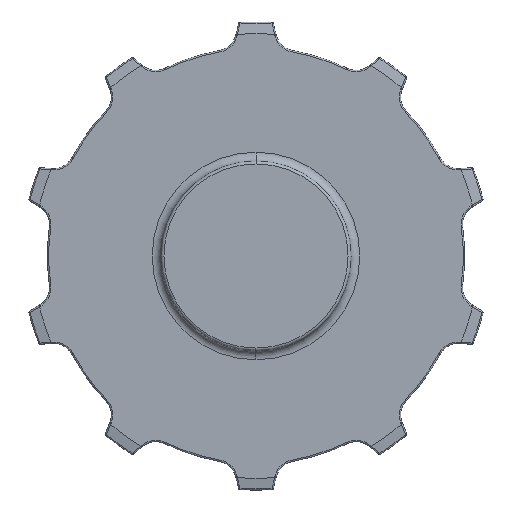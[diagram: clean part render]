
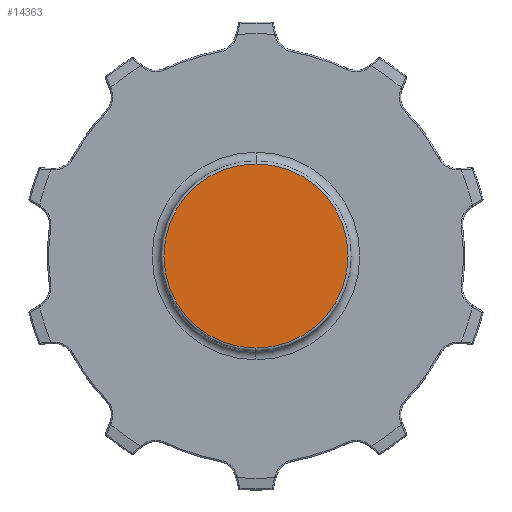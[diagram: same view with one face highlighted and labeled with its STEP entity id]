
A CAD part, left-side view. The second image highlights one B-rep face of the part: STEP entity #14363.
In plain terms, the highlighted planar face has unit normal (-1, 0, 0).
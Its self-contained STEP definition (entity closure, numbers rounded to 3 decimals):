
#313=CARTESIAN_POINT('',(-21.15,0.,0.));
#314=DIRECTION('',(-1.,0.,0.));
#315=DIRECTION('',(0.,0.,1.));
#316=AXIS2_PLACEMENT_3D('',#313,#314,#315);
#318=CARTESIAN_POINT('',(-21.15,0.,0.));
#319=DIRECTION('',(1.,0.,0.));
#320=DIRECTION('',(0.,0.,1.));
#321=AXIS2_PLACEMENT_3D('',#318,#319,#320);
#10873=CARTESIAN_POINT('',(-21.15,0.,31.5));
#10874=VERTEX_POINT('',#10873);
#10879=CARTESIAN_POINT('',(-21.15,0.,-31.5));
#10880=VERTEX_POINT('',#10879);
#14354=CARTESIAN_POINT('',(-21.15,0.,0.));
#14355=DIRECTION('',(1.,0.,0.));
#14356=DIRECTION('',(0.,0.,-1.));
#14357=AXIS2_PLACEMENT_3D('',#14354,#14355,#14356);
#14358=PLANE('',#14357);
#14359=ORIENTED_EDGE('',*,*,#14347,.F.);
#14360=ORIENTED_EDGE('',*,*,#14336,.T.);
#14361=EDGE_LOOP('',(#14359,#14360));
#14362=FACE_OUTER_BOUND('',#14361,.F.);
#14363=ADVANCED_FACE('',(#14362),#14358,.F.);
#317=CIRCLE('',#316,31.5);
#322=CIRCLE('',#321,31.5);
#14336=EDGE_CURVE('',#10874,#10880,#322,.T.);
#14347=EDGE_CURVE('',#10874,#10880,#317,.T.);
